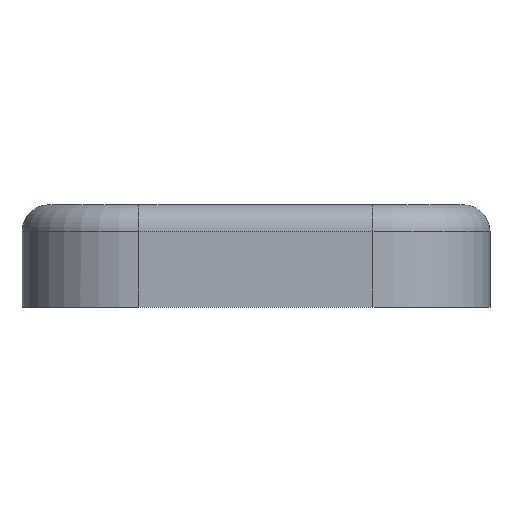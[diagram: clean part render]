
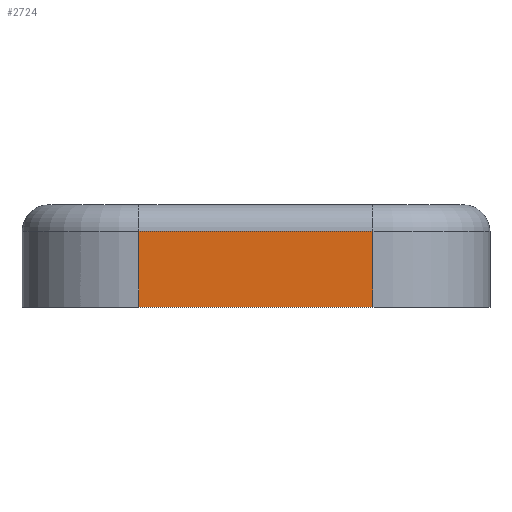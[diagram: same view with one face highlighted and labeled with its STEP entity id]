
A CAD part, front view. The second image highlights one B-rep face of the part: STEP entity #2724.
In plain terms, the highlighted planar face has unit normal (0, -1, 0).
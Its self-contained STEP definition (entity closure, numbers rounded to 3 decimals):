
#140 = CYLINDRICAL_SURFACE('',#141,5.);
#141 = AXIS2_PLACEMENT_3D('',#142,#143,#144);
#142 = CARTESIAN_POINT('',(22.,-63.,6.75));
#143 = DIRECTION('',(-1.,-0.,-0.));
#144 = DIRECTION('',(0.,-1.,0.));
#861 = VERTEX_POINT('',#862);
#862 = CARTESIAN_POINT('',(-22.,-68.,6.75));
#877 = CYLINDRICAL_SURFACE('',#878,22.);
#878 = AXIS2_PLACEMENT_3D('',#879,#880,#881);
#879 = CARTESIAN_POINT('',(-22.,-46.,-12.75));
#880 = DIRECTION('',(0.,0.,1.));
#881 = DIRECTION('',(-1.,-0.,0.));
#915 = VERTEX_POINT('',#916);
#916 = CARTESIAN_POINT('',(22.,-68.,6.75));
#940 = EDGE_CURVE('',#915,#861,#941,.T.);
#941 = SURFACE_CURVE('',#942,(#946,#953),.PCURVE_S1.);
#942 = LINE('',#943,#944);
#943 = CARTESIAN_POINT('',(22.,-68.,6.75));
#944 = VECTOR('',#945,1.);
#945 = DIRECTION('',(-1.,-0.,-0.));
#946 = PCURVE('',#140,#947);
#947 = DEFINITIONAL_REPRESENTATION('',(#948),#952);
#948 = LINE('',#949,#950);
#949 = CARTESIAN_POINT('',(0.,0.));
#950 = VECTOR('',#951,1.);
#951 = DIRECTION('',(0.,1.));
#952 = ( GEOMETRIC_REPRESENTATION_CONTEXT(2) 
PARAMETRIC_REPRESENTATION_CONTEXT() REPRESENTATION_CONTEXT('2D SPACE',''
  ) );
#953 = PCURVE('',#954,#959);
#954 = PLANE('',#955);
#955 = AXIS2_PLACEMENT_3D('',#956,#957,#958);
#956 = CARTESIAN_POINT('',(-44.,-68.,-12.75));
#957 = DIRECTION('',(0.,1.,0.));
#958 = DIRECTION('',(0.,-0.,1.));
#959 = DEFINITIONAL_REPRESENTATION('',(#960),#964);
#960 = LINE('',#961,#962);
#961 = CARTESIAN_POINT('',(19.5,66.));
#962 = VECTOR('',#963,1.);
#963 = DIRECTION('',(0.,-1.));
#964 = ( GEOMETRIC_REPRESENTATION_CONTEXT(2) 
PARAMETRIC_REPRESENTATION_CONTEXT() REPRESENTATION_CONTEXT('2D SPACE',''
  ) );
#988 = CYLINDRICAL_SURFACE('',#989,22.);
#989 = AXIS2_PLACEMENT_3D('',#990,#991,#992);
#990 = CARTESIAN_POINT('',(22.,-46.,-12.75));
#991 = DIRECTION('',(0.,0.,1.));
#992 = DIRECTION('',(1.,0.,-0.));
#2212 = PLANE('',#2213);
#2213 = AXIS2_PLACEMENT_3D('',#2214,#2215,#2216);
#2214 = CARTESIAN_POINT('',(-90.,-110.,-7.5));
#2215 = DIRECTION('',(0.,0.,1.));
#2216 = DIRECTION('',(1.,0.,-0.));
#2680 = VERTEX_POINT('',#2681);
#2681 = CARTESIAN_POINT('',(-22.,-68.,-7.5));
#2703 = EDGE_CURVE('',#2680,#861,#2704,.T.);
#2704 = SURFACE_CURVE('',#2705,(#2709,#2716),.PCURVE_S1.);
#2705 = LINE('',#2706,#2707);
#2706 = CARTESIAN_POINT('',(-22.,-68.,-12.75));
#2707 = VECTOR('',#2708,1.);
#2708 = DIRECTION('',(0.,0.,1.));
#2709 = PCURVE('',#877,#2710);
#2710 = DEFINITIONAL_REPRESENTATION('',(#2711),#2715);
#2711 = LINE('',#2712,#2713);
#2712 = CARTESIAN_POINT('',(1.571,0.));
#2713 = VECTOR('',#2714,1.);
#2714 = DIRECTION('',(0.,1.));
#2715 = ( GEOMETRIC_REPRESENTATION_CONTEXT(2) 
PARAMETRIC_REPRESENTATION_CONTEXT() REPRESENTATION_CONTEXT('2D SPACE',''
  ) );
#2716 = PCURVE('',#954,#2717);
#2717 = DEFINITIONAL_REPRESENTATION('',(#2718),#2722);
#2718 = LINE('',#2719,#2720);
#2719 = CARTESIAN_POINT('',(0.,22.));
#2720 = VECTOR('',#2721,1.);
#2721 = DIRECTION('',(1.,0.));
#2722 = ( GEOMETRIC_REPRESENTATION_CONTEXT(2) 
PARAMETRIC_REPRESENTATION_CONTEXT() REPRESENTATION_CONTEXT('2D SPACE',''
  ) );
#2724 = ADVANCED_FACE('',(#2725),#954,.F.);
#2725 = FACE_BOUND('',#2726,.F.);
#2726 = EDGE_LOOP('',(#2727,#2750,#2751,#2752));
#2727 = ORIENTED_EDGE('',*,*,#2728,.F.);
#2728 = EDGE_CURVE('',#2680,#2729,#2731,.T.);
#2729 = VERTEX_POINT('',#2730);
#2730 = CARTESIAN_POINT('',(22.,-68.,-7.5));
#2731 = SURFACE_CURVE('',#2732,(#2736,#2743),.PCURVE_S1.);
#2732 = LINE('',#2733,#2734);
#2733 = CARTESIAN_POINT('',(-67.,-68.,-7.5));
#2734 = VECTOR('',#2735,1.);
#2735 = DIRECTION('',(1.,0.,0.));
#2736 = PCURVE('',#954,#2737);
#2737 = DEFINITIONAL_REPRESENTATION('',(#2738),#2742);
#2738 = LINE('',#2739,#2740);
#2739 = CARTESIAN_POINT('',(5.25,-23.));
#2740 = VECTOR('',#2741,1.);
#2741 = DIRECTION('',(0.,1.));
#2742 = ( GEOMETRIC_REPRESENTATION_CONTEXT(2) 
PARAMETRIC_REPRESENTATION_CONTEXT() REPRESENTATION_CONTEXT('2D SPACE',''
  ) );
#2743 = PCURVE('',#2212,#2744);
#2744 = DEFINITIONAL_REPRESENTATION('',(#2745),#2749);
#2745 = LINE('',#2746,#2747);
#2746 = CARTESIAN_POINT('',(23.,42.));
#2747 = VECTOR('',#2748,1.);
#2748 = DIRECTION('',(1.,0.));
#2749 = ( GEOMETRIC_REPRESENTATION_CONTEXT(2) 
PARAMETRIC_REPRESENTATION_CONTEXT() REPRESENTATION_CONTEXT('2D SPACE',''
  ) );
#2750 = ORIENTED_EDGE('',*,*,#2703,.T.);
#2751 = ORIENTED_EDGE('',*,*,#940,.F.);
#2752 = ORIENTED_EDGE('',*,*,#2753,.F.);
#2753 = EDGE_CURVE('',#2729,#915,#2754,.T.);
#2754 = SURFACE_CURVE('',#2755,(#2759,#2766),.PCURVE_S1.);
#2755 = LINE('',#2756,#2757);
#2756 = CARTESIAN_POINT('',(22.,-68.,-12.75));
#2757 = VECTOR('',#2758,1.);
#2758 = DIRECTION('',(0.,0.,1.));
#2759 = PCURVE('',#954,#2760);
#2760 = DEFINITIONAL_REPRESENTATION('',(#2761),#2765);
#2761 = LINE('',#2762,#2763);
#2762 = CARTESIAN_POINT('',(0.,66.));
#2763 = VECTOR('',#2764,1.);
#2764 = DIRECTION('',(1.,0.));
#2765 = ( GEOMETRIC_REPRESENTATION_CONTEXT(2) 
PARAMETRIC_REPRESENTATION_CONTEXT() REPRESENTATION_CONTEXT('2D SPACE',''
  ) );
#2766 = PCURVE('',#988,#2767);
#2767 = DEFINITIONAL_REPRESENTATION('',(#2768),#2772);
#2768 = LINE('',#2769,#2770);
#2769 = CARTESIAN_POINT('',(4.712,0.));
#2770 = VECTOR('',#2771,1.);
#2771 = DIRECTION('',(-0.,1.));
#2772 = ( GEOMETRIC_REPRESENTATION_CONTEXT(2) 
PARAMETRIC_REPRESENTATION_CONTEXT() REPRESENTATION_CONTEXT('2D SPACE',''
  ) );
